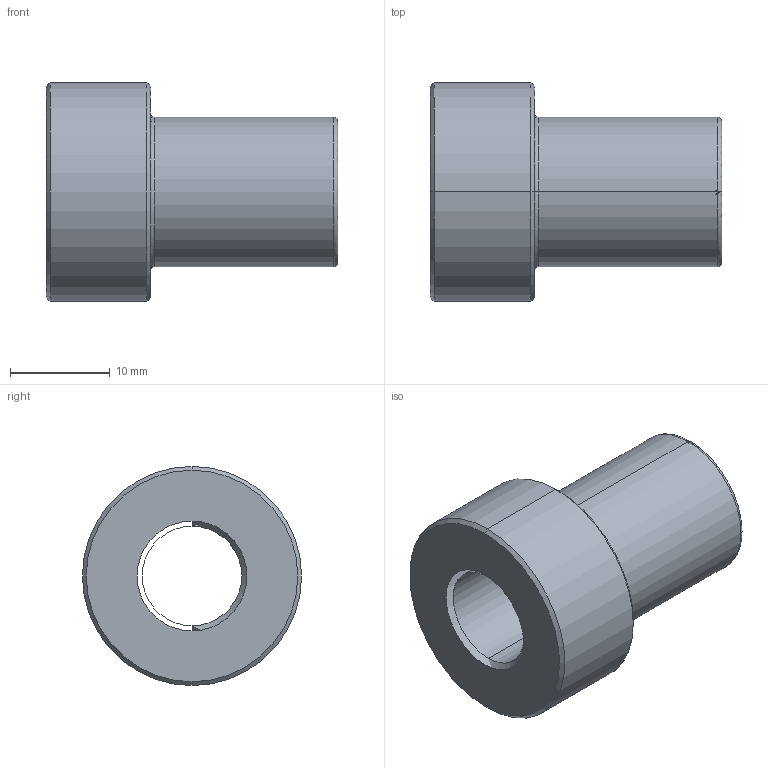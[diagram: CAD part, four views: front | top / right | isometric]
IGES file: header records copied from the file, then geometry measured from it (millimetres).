
Start section: 3D InterOp IGES (v. 2019 1.0.2), Spatial Corp. Copyright (c) 1999-2017.
Global section: file name: B4SSM.igs; native system: Spatial Corp.; preprocessor: 3D InterOp GENERIC/IGES 3.0; author: Noname; organization: Noname; date: 20200930.105800; units: millimetre
Bounding box: 29.26 x 22 x 22 mm (x, y, z)
Surface area: 3219.9 mm2 (no closed solid volume)
Topology: 0 solids, 0 shells, 21 faces, 88 edges, 86 vertices
Faces by surface type: revolution 18, extrusion 3
